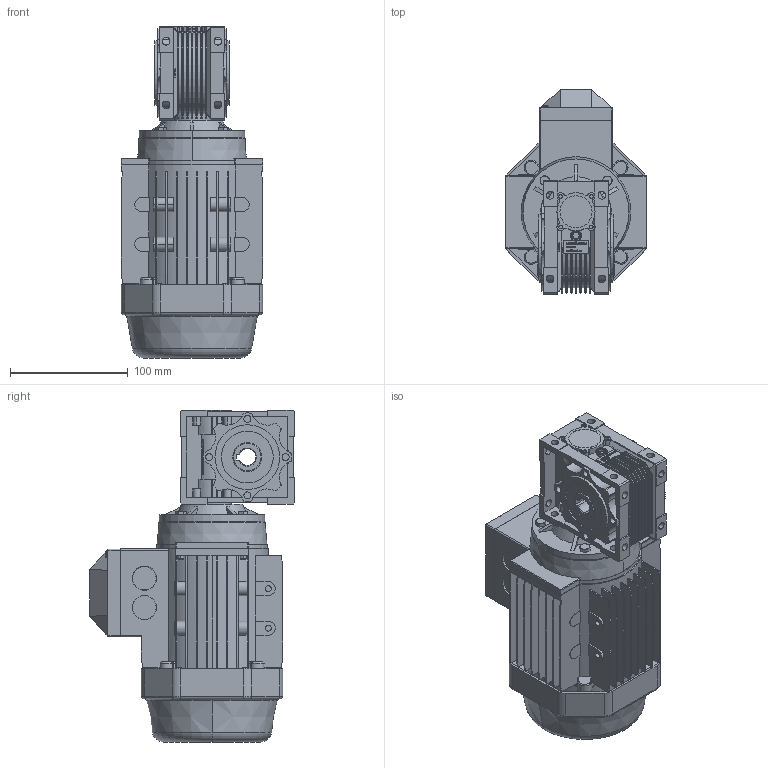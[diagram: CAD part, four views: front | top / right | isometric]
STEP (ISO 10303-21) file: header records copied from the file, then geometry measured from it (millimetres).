
FILE_DESCRIPTION (( 'STEP AP214' ), '1' );
FILE_NAME ('STP_NMRV030_空心轴_14_63B14_无_63_YS_1_无_无结构附件_无或C1或C2_无或C1或C2_无.step', '2021-04-28T08:17:49', ( 'IT Division' ), ( 'IT' ), 'SwSTEP 2.0', 'SolidWorks 2016', '' );
FILE_SCHEMA (( 'AUTOMOTIVE_DESIGN' ));
Length unit declared in the file: millimetre
Products named in the file (3): STP_NMRV030_空心轴_14_63B14_无_63_YS_1_无_无结构附件_无或C1或C2_无或C1或C2_无_IEC电机; STP_NMRV030_空心轴_14_63B14_无_63_YS_1_无_无结构附件_无或C1或C2_无或C1或C2_无; STP_NMRV030_空心轴_14_63B14_无_63_YS_1_无_无结构附件_无或C1或C2_无或C1或C2_无_NMRV
Assembly tree (2 placements, depth 2):
  STP_NMRV030_空心轴_14_63B14_无_63_YS_1_无_无结构附件_无或C1或C2_无或C1或C2_无
    STP_NMRV030_空心轴_14_63B14_无_63_YS_1_无_无结构附件_无或C1或C2_无或C1或C2_无_NMRV
    STP_NMRV030_空心轴_14_63B14_无_63_YS_1_无_无结构附件_无或C1或C2_无或C1或C2_无_IEC电机
Bounding box: 120 x 174 x 282 mm (x, y, z)
Volume: 2094653.8 mm3; surface area: 324727.8 mm2
Topology: 4 solids, 4 shells, 2890 faces, 7750 edges, 4937 vertices
Faces by surface type: plane 1529, cylinder 661, bspline 437, sphere 126, torus 82, cone 55
Entity records: 110497 total; most frequent: CARTESIAN_POINT 39959, ORIENTED_EDGE 15356, DIRECTION 13089, EDGE_CURVE 7678, VERTEX_POINT 4935, VECTOR 4839, LINE 4839, AXIS2_PLACEMENT_3D 4125
